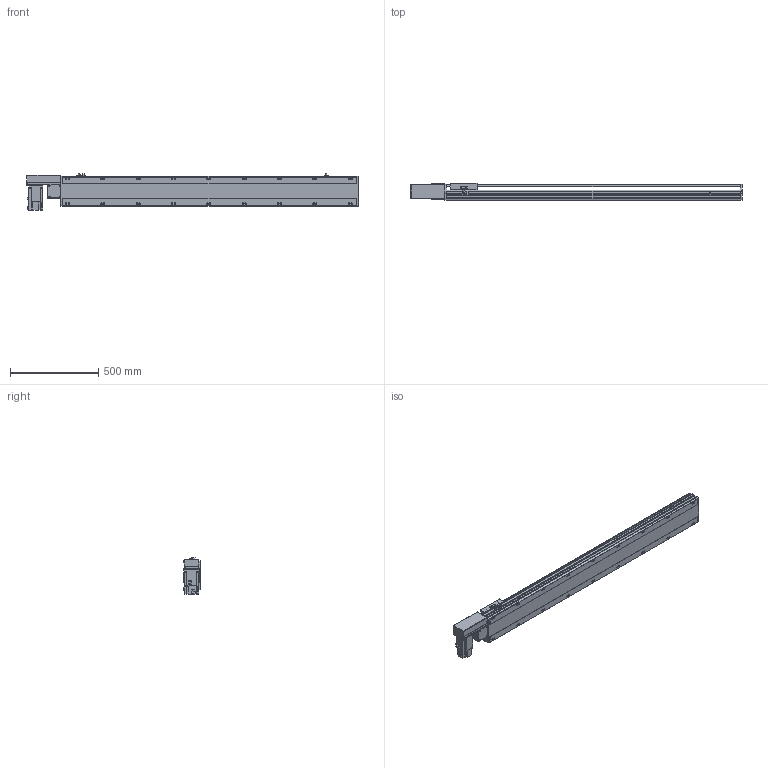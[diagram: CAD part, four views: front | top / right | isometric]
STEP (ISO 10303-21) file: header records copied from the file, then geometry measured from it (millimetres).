
FILE_DESCRIPTION( ( 'STEP AP214' ), '1' );
FILE_NAME( 'x:/temp/worker_4/temp/exporttempdir_2248_268_47ucM/format_0/PBS170-P40-S1400-R-T75-C1-N(0).stp', '2022-06-07T07:30:36', ( 'License CC BY-ND 4.0' ), ( 'CADENAS' ), ' ', 'PARTsolutions', ' ' );
FILE_SCHEMA( ( 'AUTOMOTIVE_DESIGN { 1 0 10303 214 1 1 1 1 }' ) );
Length unit declared in the file: millimetre
Products named in the file (7): PBS170-P40-S1400-R-T75-C1-N(0); _PBS170-S1400()_body; _PBS170T-R_motors; _T75-p1; _PBS170_sliser; _PBS170_plant; _PBS170_sensor
Assembly tree (8 placements, depth 2):
  PBS170-P40-S1400-R-T75-C1-N(0)
    _PBS170-S1400()_body
    _PBS170T-R_motors
    _T75-p1
    _PBS170_sliser
    _PBS170_plant
    _PBS170_sensor  x3
Bounding box: 1878 x 97 x 205.3 mm (x, y, z)
Volume: 13842785.7 mm3; surface area: 1783161.1 mm2
Topology: 8 solids, 8 shells, 1098 faces, 2915 edges, 1900 vertices
Faces by surface type: plane 693, cylinder 347, cone 48, sphere 8, torus 2
Full cylindrical faces by diameter (mm): 3.242 x4, 4 x2, 4.4 x4, 4.5 x6, 4.917 x4, 6 x9, 6.647 x26, 7 x2, 7.5 x4, 8 x8, 8.5 x18, 10 x4, 10.5 x18, 11 x2, 30 x2, 40 x1, 70 x1
Entity records: 40382 total; most frequent: CARTESIAN_POINT 6389, DIRECTION 5370, ORIENTED_EDGE 5088, EDGE_CURVE 2544, AXIS2_PLACEMENT_3D 1867, VERTEX_POINT 1754, LINE 1636, VECTOR 1636
